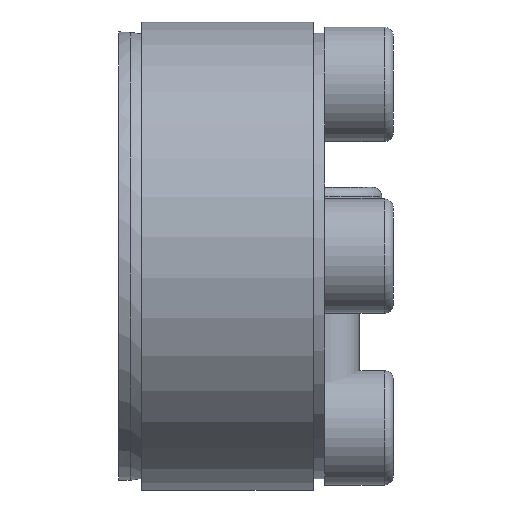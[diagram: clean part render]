
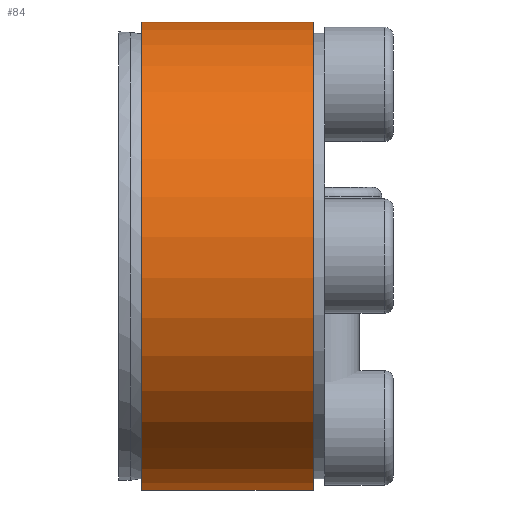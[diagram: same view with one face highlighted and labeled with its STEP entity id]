
A CAD part, left-side view. The second image highlights one B-rep face of the part: STEP entity #84.
In plain terms, the highlighted cylindrical face has radius 20.5 mm (diameter 41 mm), a partial arc.
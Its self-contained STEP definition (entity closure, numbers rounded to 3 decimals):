
#84 = ADVANCED_FACE( '', ( #171 ), #172, .T. );
#171 = FACE_OUTER_BOUND( '', #281, .T. );
#172 = CYLINDRICAL_SURFACE( '', #282, 20.5 );
#281 = EDGE_LOOP( '', ( #464, #465, #466, #467 ) );
#282 = AXIS2_PLACEMENT_3D( '', #468, #469, #470 );
#464 = ORIENTED_EDGE( '', *, *, #685, .F. );
#465 = ORIENTED_EDGE( '', *, *, #695, .T. );
#466 = ORIENTED_EDGE( '', *, *, #673, .T. );
#467 = ORIENTED_EDGE( '', *, *, #696, .F. );
#468 = CARTESIAN_POINT( '', ( 0., -60., 0. ) );
#469 = DIRECTION( '', ( 0., 1., 0. ) );
#470 = DIRECTION( '', ( 0., 0., -1. ) );
#673 = EDGE_CURVE( '', #816, #831, #833, .T. );
#685 = EDGE_CURVE( '', #851, #852, #853, .T. );
#695 = EDGE_CURVE( '', #851, #816, #867, .T. );
#696 = EDGE_CURVE( '', #852, #831, #868, .T. );
#816 = VERTEX_POINT( '', #1088 );
#831 = VERTEX_POINT( '', #1113 );
#833 = LINE( '', #1116, #1117 );
#851 = VERTEX_POINT( '', #1138 );
#852 = VERTEX_POINT( '', #1139 );
#853 = LINE( '', #1140, #1141 );
#867 = CIRCLE( '', #1163, 20.5 );
#868 = CIRCLE( '', #1164, 20.5 );
#1088 = CARTESIAN_POINT( '', ( 14.845, 16., 14.138 ) );
#1113 = CARTESIAN_POINT( '', ( 14.845, 1., 14.138 ) );
#1116 = CARTESIAN_POINT( '', ( 14.845, -60., 14.138 ) );
#1117 = VECTOR( '', #1268, 1000. );
#1138 = CARTESIAN_POINT( '', ( 14.138, 16., 14.845 ) );
#1139 = CARTESIAN_POINT( '', ( 14.138, 1., 14.845 ) );
#1140 = CARTESIAN_POINT( '', ( 14.138, -60., 14.845 ) );
#1141 = VECTOR( '', #1287, 1000. );
#1163 = AXIS2_PLACEMENT_3D( '', #1296, #1297, #1298 );
#1164 = AXIS2_PLACEMENT_3D( '', #1299, #1300, #1301 );
#1268 = DIRECTION( '', ( 0., -1., 0. ) );
#1287 = DIRECTION( '', ( 0., -1., 0. ) );
#1296 = CARTESIAN_POINT( '', ( 0., 16., 0. ) );
#1297 = DIRECTION( '', ( 0., -1., 0. ) );
#1298 = DIRECTION( '', ( 0., 0., -1. ) );
#1299 = CARTESIAN_POINT( '', ( 0., 1., 0. ) );
#1300 = DIRECTION( '', ( 0., -1., 0. ) );
#1301 = DIRECTION( '', ( 0., 0., -1. ) );
